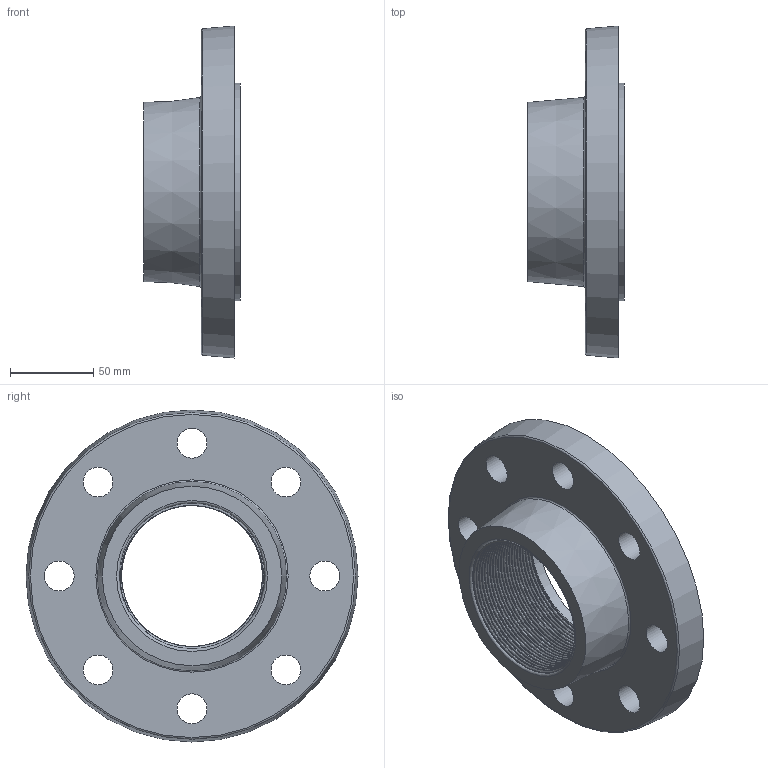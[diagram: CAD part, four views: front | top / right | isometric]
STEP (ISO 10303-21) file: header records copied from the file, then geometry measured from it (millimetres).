
FILE_DESCRIPTION(/* description */ (''),/* implementation_level */ '2;1');
FILE_NAME(/* name */ 'C:\Users\Gabriele\Desktop\disegni 3D\FF01\FF010900.ipt.stp',/* time_stamp */ '2017-01-25T17:54:12+01:00',/* author */ ('Gabriele'),/* organization */ (''),/* preprocessor_version */ 'ST-DEVELOPER v16.5',/* originating_system */ 'Autodesk Inventor 2017',/* authorisation */ '');
FILE_SCHEMA (('AUTOMOTIVE_DESIGN { 1 0 10303 214 3 1 1 }'));
Length unit declared in the file: millimetre
Products named in the file (1): FF010900
Bounding box: 58 x 200 x 200 mm (x, y, z)
Volume: 566494 mm3; surface area: 149529.3 mm2
Topology: 2 solids, 2 shells, 803 faces, 1679 edges, 921 vertices
Faces by surface type: torus 315, cylinder 291, sphere 112, plane 77, bspline 6, cone 2
Full cylindrical faces by diameter (mm): 18 x8, 87.88 x2, 88 x1, 94.143 x1, 100.286 x1, 106.429 x1, 112.571 x1, 118.714 x1, 124.857 x1, 131 x1
Entity records: 31189 total; most frequent: CARTESIAN_POINT 13496, DIRECTION 4406, ORIENTED_EDGE 3280, AXIS2_PLACEMENT_3D 2019, EDGE_CURVE 1640, CIRCLE 1221, VERTEX_POINT 913, EDGE_LOOP 895
